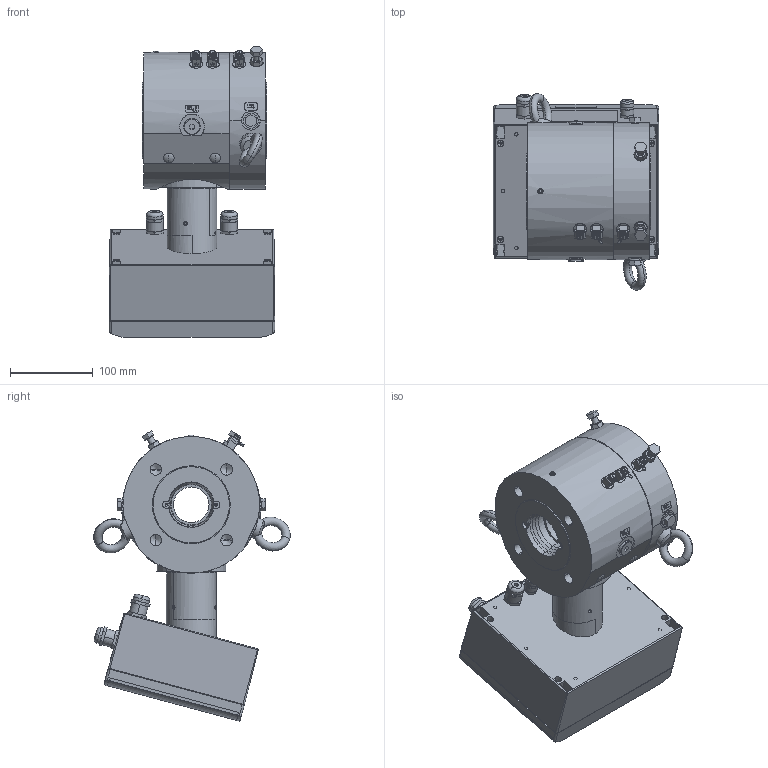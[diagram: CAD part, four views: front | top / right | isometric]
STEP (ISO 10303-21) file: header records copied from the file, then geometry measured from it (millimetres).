
FILE_DESCRIPTION((''),'2;1');
FILE_NAME('STANDARD_SW0022_150_L','2023-09-07T11:28:52',('R85801'),(''),'CREO PARAMETRIC BY PTC INC, 2022281','CREO PARAMETRIC BY PTC INC, 2022281','');
FILE_SCHEMA(('AP242_MANAGED_MODEL_BASED_3D_ENGINEERING_MIM_LF { 1 0 10303 442 1 1 4 }'));
Products named in the file (2): STANDARD_SW0022_150_L; 10038_S235JRG2
Bounding box: 200 x 237.17 x 350.66 mm (x, y, z)
Volume: 3066022.9 mm3; surface area: 593007 mm2
Topology: 12 solids, 22 shells, 3859 faces, 9745 edges, 6150 vertices
Faces by surface type: plane 1857, cylinder 673, extrusion 632, cone 354, torus 251, bspline 60, sphere 32
Entity records: 185394 total; most frequent: CARTESIAN_POINT 32303, ORIENTED_EDGE 19302, DIRECTION 17265, PRESENTATION_STYLE_ASSIGNMENT 14015, STYLED_ITEM 10300, CURVE_STYLE 10287, EDGE_CURVE 9651, VECTOR 6453
